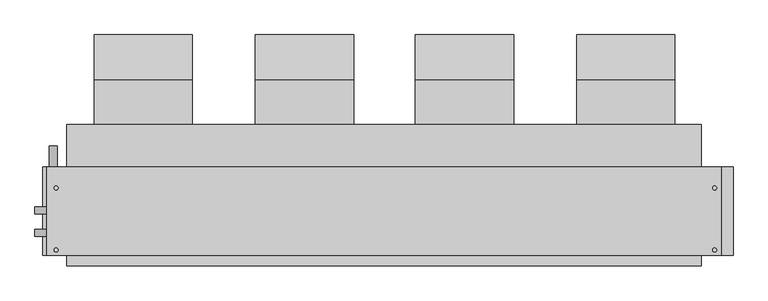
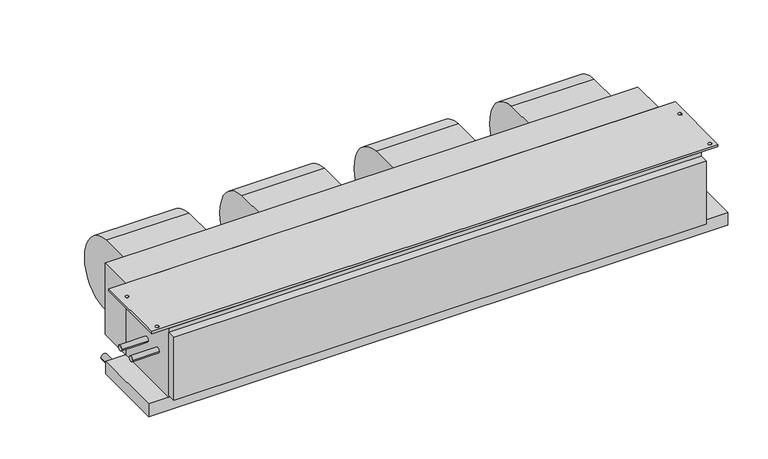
"""IFC4 building model written with IfcOpenShell, lengths in millimetres: proxy geometry, Concealed_Horizontal_Fan_Coil_Unit_-_42CAA_-_CARRIER_-_2-Pipe_Cool-EHeat_LH_2022 : Size 12 - 277v/60Hz/1Ph - 4 Row 10.0kW."""

from ifc_helpers import new_model, si_unit, point, frame, frame_2d, origin, place, context, project, spatial, polyline, circle_curve, trimmed, segment, composite_curve, outline, extrude, source, transform, mapped, element, save


def mechanical_equipment_a045ce82(model_context):
    return source(origin(), model_context, "Body", "SweptSolid", [
        extrude(outline(composite_curve([segment(trimmed(circle_curve(frame_2d((68.401169, -136.0299844)), 117.3559541), [point((77.7875, -19.05))], [point((185.7375, -138.176))], False, "CARTESIAN"), True, "CONTINUOUS"), segment(trimmed(circle_curve(frame_2d((90.0022663, -136.4250563)), 95.7512443), [point((185.7375, -138.176))], [point((77.7875, -231.394))], False, "CARTESIAN"), True, "CONTINUOUS"), segment(trimmed(circle_curve(frame_2d((89.9711869, -136.6666968)), 95.5076133), [point((77.7875, -231.394))], [point((-5.5245, -138.176))], False, "CARTESIAN"), True, "CONTINUOUS"), segment(trimmed(circle_curve(frame_2d((-24.6059828, -138.4775816)), 19.0838659), [point((-5.5245, -138.176))], [point((-17.7963373, -120.65))], True, "CARTESIAN"), True, "CONTINUOUS"), segment(polyline([(-17.7963373, -120.65), (-30.1625, -120.65), (-30.1625, -19.05), (77.7875, -19.05)]), True, "CONTINUOUS")], self_intersect=False)), frame((615.188, 0.0, 0.0), z_axis=(1.0, 0.0, 0.0), x_axis=(0.0, 1.0, 0.0)), (0.0, 0.0, 1.0), 235.712),
        extrude(outline(composite_curve([segment(trimmed(circle_curve(frame_2d((68.401169, -136.0299844)), 117.3559541), [point((77.7875, -19.05))], [point((185.7375, -138.176))], False, "CARTESIAN"), True, "CONTINUOUS"), segment(trimmed(circle_curve(frame_2d((90.0022663, -136.4250563)), 95.7512443), [point((185.7375, -138.176))], [point((77.7875, -231.394))], False, "CARTESIAN"), True, "CONTINUOUS"), segment(trimmed(circle_curve(frame_2d((89.9711869, -136.6666968)), 95.5076133), [point((77.7875, -231.394))], [point((-5.5245, -138.176))], False, "CARTESIAN"), True, "CONTINUOUS"), segment(trimmed(circle_curve(frame_2d((-24.6059828, -138.4775816)), 19.0838659), [point((-5.5245, -138.176))], [point((-17.7963373, -120.65))], True, "CARTESIAN"), True, "CONTINUOUS"), segment(polyline([(-17.7963373, -120.65), (-30.1625, -120.65), (-30.1625, -19.05), (77.7875, -19.05)]), True, "CONTINUOUS")], self_intersect=False)), frame((-543.687, 0.0, 0.0), z_axis=(1.0, 0.0, 0.0), x_axis=(0.0, 1.0, 0.0)), (0.0, 0.0, 1.0), 235.712),
        extrude(outline(composite_curve([segment(trimmed(circle_curve(frame_2d((68.401169, -136.0299844)), 117.3559541), [point((77.7875, -19.05))], [point((185.7375, -138.176))], False, "CARTESIAN"), True, "CONTINUOUS"), segment(trimmed(circle_curve(frame_2d((90.0022663, -136.4250563)), 95.7512443), [point((185.7375, -138.176))], [point((77.7875, -231.394))], False, "CARTESIAN"), True, "CONTINUOUS"), segment(trimmed(circle_curve(frame_2d((89.9711869, -136.6666968)), 95.5076133), [point((77.7875, -231.394))], [point((-5.5245, -138.176))], False, "CARTESIAN"), True, "CONTINUOUS"), segment(trimmed(circle_curve(frame_2d((-24.6059828, -138.4775816)), 19.0838659), [point((-5.5245, -138.176))], [point((-17.7963373, -120.65))], True, "CARTESIAN"), True, "CONTINUOUS"), segment(polyline([(-17.7963373, -120.65), (-30.1625, -120.65), (-30.1625, -19.05), (77.7875, -19.05)]), True, "CONTINUOUS")], self_intersect=False)), frame((-156.337, 0.0, 0.0), z_axis=(1.0, 0.0, 0.0), x_axis=(0.0, 1.0, 0.0)), (0.0, 0.0, 1.0), 235.712),
        extrude(outline(composite_curve([segment(trimmed(circle_curve(frame_2d((68.401169, -136.0299844)), 117.3559541), [point((77.7875, -19.05))], [point((185.7375, -138.176))], False, "CARTESIAN"), True, "CONTINUOUS"), segment(trimmed(circle_curve(frame_2d((90.0022663, -136.4250563)), 95.7512443), [point((185.7375, -138.176))], [point((77.7875, -231.394))], False, "CARTESIAN"), True, "CONTINUOUS"), segment(trimmed(circle_curve(frame_2d((89.9711869, -136.6666968)), 95.5076133), [point((77.7875, -231.394))], [point((-5.5245, -138.176))], False, "CARTESIAN"), True, "CONTINUOUS"), segment(trimmed(circle_curve(frame_2d((-24.6059828, -138.4775816)), 19.0838659), [point((-5.5245, -138.176))], [point((-17.7963373, -120.65))], True, "CARTESIAN"), True, "CONTINUOUS"), segment(polyline([(-17.7963373, -120.65), (-30.1625, -120.65), (-30.1625, -19.05), (77.7875, -19.05)]), True, "CONTINUOUS")], self_intersect=False)), frame((227.838, 0.0, 0.0), z_axis=(1.0, 0.0, 0.0), x_axis=(0.0, 1.0, 0.0)), (0.0, 0.0, 1.0), 235.712),
        extrude(outline(polyline([(962.025, -131.7625), (962.025, -344.4875), (-657.225, -344.4875), (-657.225, -131.7625), (962.025, -131.7625)]), holes=[composite_curve([segment(trimmed(circle_curve(frame_2d((-635.0, -182.5625)), 4.7625), [point((-639.7625, -182.5625))], [point((-630.2375, -182.5625))], True, "CARTESIAN"), True, "CONTINUOUS"), segment(trimmed(circle_curve(frame_2d((-635.0, -182.5625)), 4.7625), [point((-630.2375, -182.5625))], [point((-639.7625, -182.5625))], True, "CARTESIAN"), True, "CONTINUOUS")], self_intersect=False), composite_curve([segment(trimmed(circle_curve(frame_2d((-635.0, -331.7875)), 4.7625), [point((-639.7625, -331.7875))], [point((-630.2375, -331.7875))], True, "CARTESIAN"), True, "CONTINUOUS"), segment(trimmed(circle_curve(frame_2d((-635.0, -331.7875)), 4.7625), [point((-630.2375, -331.7875))], [point((-639.7625, -331.7875))], True, "CARTESIAN"), True, "CONTINUOUS")], self_intersect=False), composite_curve([segment(trimmed(circle_curve(frame_2d((946.15, -182.5625)), 4.7625), [point((941.3875, -182.5625))], [point((950.9125, -182.5625))], True, "CARTESIAN"), True, "CONTINUOUS"), segment(trimmed(circle_curve(frame_2d((946.15, -182.5625)), 4.7625), [point((950.9125, -182.5625))], [point((941.3875, -182.5625))], True, "CARTESIAN"), True, "CONTINUOUS")], self_intersect=False), composite_curve([segment(trimmed(circle_curve(frame_2d((946.15, -331.7875)), 4.7625), [point((941.3875, -331.7875))], [point((950.9125, -331.7875))], True, "CARTESIAN"), True, "CONTINUOUS"), segment(trimmed(circle_curve(frame_2d((946.15, -331.7875)), 4.7625), [point((950.9125, -331.7875))], [point((941.3875, -331.7875))], True, "CARTESIAN"), True, "CONTINUOUS")], self_intersect=False)]), frame((0.0, 0.0, -6.35), z_axis=(0.0, 0.0, 1.0), x_axis=(1.0, 0.0, 0.0)), (0.0, 0.0, 1.0), 6.35),
        extrude(outline(polyline([(-609.6, -30.1625), (914.4, -30.1625), (914.4, -131.7625), (-609.6, -131.7625), (-609.6, -30.1625)])), frame((0.0, 0.0, -215.9), z_axis=(0.0, 0.0, 1.0), x_axis=(1.0, 0.0, 0.0)), (0.0, 0.0, 1.0), 215.9),
        extrude(outline(composite_curve([segment(trimmed(circle_curve(frame_2d((-241.3, -641.35)), 9.525), [point((-241.3, -650.875))], [point((-241.3, -631.825))], False, "CARTESIAN"), True, "CONTINUOUS"), segment(trimmed(circle_curve(frame_2d((-241.3, -641.35)), 9.525), [point((-241.3, -631.825))], [point((-241.3, -650.875))], False, "CARTESIAN"), True, "CONTINUOUS")], self_intersect=False)), frame((0.0, -131.7625, 0.0), z_axis=(0.0, 1.0, 0.0), x_axis=(0.0, 0.0, 1.0)), (0.0, 0.0, 1.0), 50.8),
        extrude(outline(polyline([(914.4, -369.8875), (-609.6, -369.8875), (-609.6, -344.4875), (914.4, -344.4875), (914.4, -369.8875)])), frame((0.0, 0.0, -209.55), z_axis=(0.0, 0.0, 1.0), x_axis=(1.0, 0.0, 0.0)), (0.0, 0.0, 1.0), 190.5),
        extrude(outline(polyline([(990.6, -131.7625), (990.6, -344.4875), (-666.75, -344.4875), (-666.75, -131.7625), (990.6, -131.7625)])), frame((0.0, 0.0, -254.0), z_axis=(0.0, 0.0, 1.0), x_axis=(1.0, 0.0, 0.0)), (0.0, 0.0, 1.0), 38.1),
        extrude(outline(composite_curve([segment(trimmed(circle_curve(frame_2d((-290.5125, -104.775)), 7.9375), [point((-282.575, -104.775))], [point((-298.45, -104.775))], False, "CARTESIAN"), True, "CONTINUOUS"), segment(trimmed(circle_curve(frame_2d((-290.5125, -104.775)), 7.9375), [point((-298.45, -104.775))], [point((-282.575, -104.775))], False, "CARTESIAN"), True, "CONTINUOUS")], self_intersect=False)), frame((-685.8, 0.0, 0.0), z_axis=(1.0, 0.0, 0.0), x_axis=(0.0, 1.0, 0.0)), (0.0, 0.0, 1.0), 76.2),
        extrude(outline(composite_curve([segment(trimmed(circle_curve(frame_2d((-236.5375, -104.775)), 7.9375), [point((-228.6, -104.775))], [point((-244.475, -104.775))], False, "CARTESIAN"), True, "CONTINUOUS"), segment(trimmed(circle_curve(frame_2d((-236.5375, -104.775)), 7.9375), [point((-244.475, -104.775))], [point((-228.6, -104.775))], False, "CARTESIAN"), True, "CONTINUOUS")], self_intersect=False)), frame((-685.8, 0.0, 0.0), z_axis=(1.0, 0.0, 0.0), x_axis=(0.0, 1.0, 0.0)), (0.0, 0.0, 1.0), 76.2),
        extrude(outline(polyline([(914.4, -344.4875), (-609.6, -344.4875), (-609.6, -131.7625), (914.4, -131.7625), (914.4, -344.4875)])), frame((0.0, 0.0, -215.9), z_axis=(0.0, 0.0, 1.0), x_axis=(1.0, 0.0, 0.0)), (0.0, 0.0, 1.0), 209.55),
    ])


if __name__ == "__main__":
    model = new_model("IFC4")
    model_context = context("Model", 3, world=origin())
    ifc_project = project(units=[si_unit("LENGTHUNIT", "METRE", prefix="MILLI")], contexts=[model_context])
    site = spatial("IfcSite", under=ifc_project)
    building = spatial("IfcBuilding", under=site)
    placement = place(None, origin())
    mechanical_equipment_shape = mechanical_equipment_a045ce82(model_context)
    element("IfcBuildingElementProxy", 1, Name="Concealed_Horizontal_Fan_Coil_Unit_-_42CAA_-_CARRIER_-_2-Pipe_Cool-EHeat_LH_2022 : Size 12 - 277v/60Hz/1Ph - 4 Row 10.0kW", ObjectType="Concealed_Horizontal_Fan_Coil_Unit_-_42CAA_-_CARRIER_-_2-Pipe_Cool-EHeat_LH_2022 : Size 12 - 277v/60Hz/1Ph - 4 Row 10.0kW", at=placement, inside=building, context=model_context, shape_type="MappedRepresentation", body=[
        mapped(mechanical_equipment_shape, transform((0.0, 0.0, 0.0), x_axis=(1.0, 0.0, 0.0), y_axis=(0.0, 1.0, 0.0), z_axis=(0.0, 0.0, 1.0))),
    ])
    save(model, "model.ifc")
